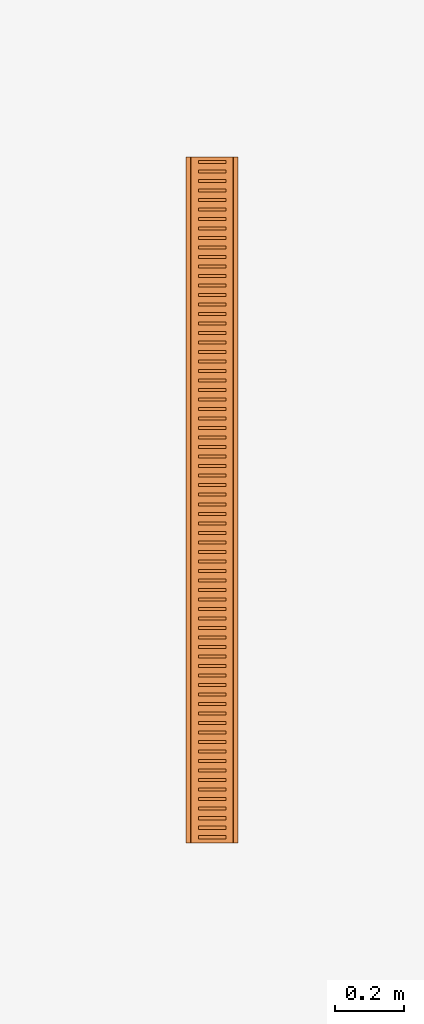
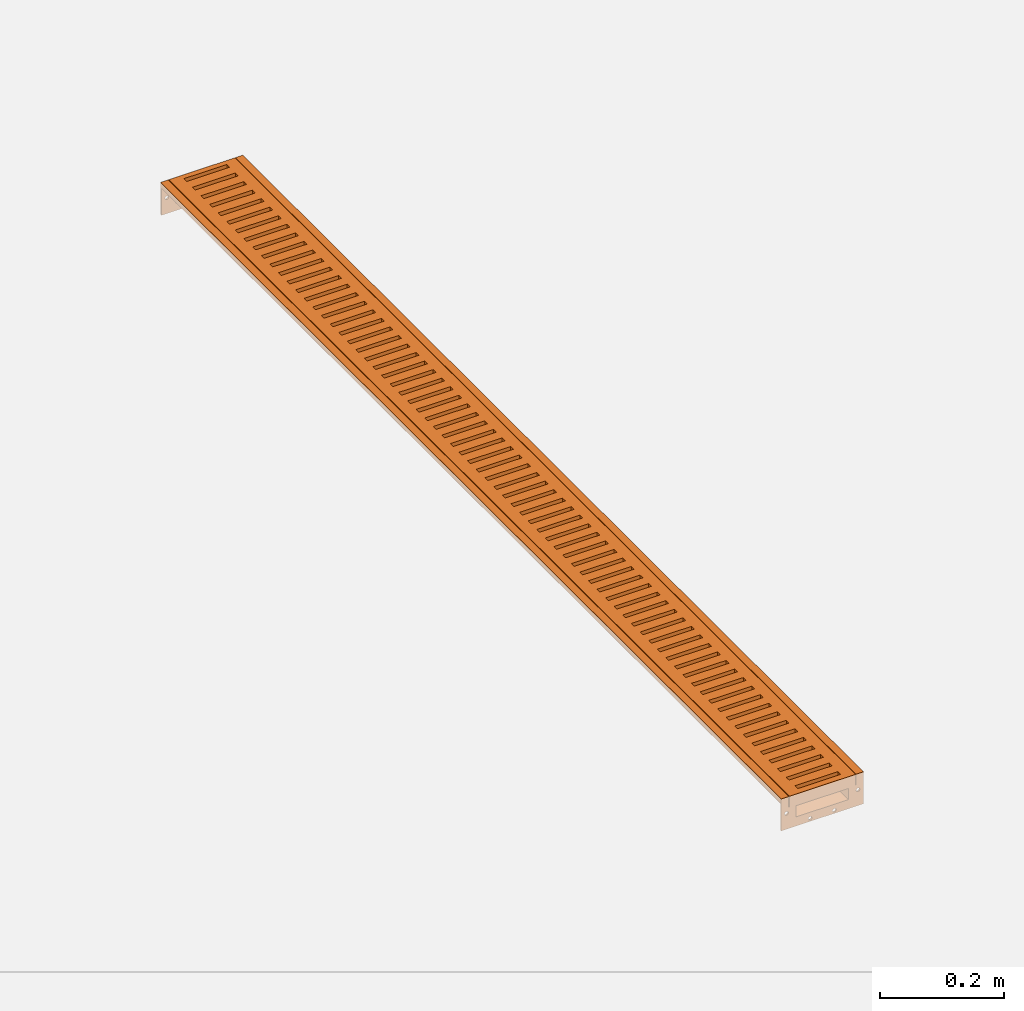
# One storey, part 2 of 2: 1 proxy.
"""IFC2X3 building model written with IfcOpenShell, lengths in millimetres."""

from ifc_helpers import new_model, entity, si_unit, converted_unit, direction, frame, frame_2d, origin, place, context, subcontext, project, spatial, polyline, circle_curve, parameter, trimmed, segment, composite_curve, outline, extrude, source, transform, mapped, material, element, save


model = new_model("IFC2X3")

# Units and contexts
model_context = context("Model", 3, precision=1e-06, world=origin(), true_north=direction((2.0, 6.12303176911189e-17, 1.0)))
context_of_model = context(None, 3, precision=1e-06, world=origin(), true_north=direction((2.0, 6.12303176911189e-17, 1.0)))
body_context = subcontext(model_context, "Body", "Model", "MODEL_VIEW")
ifc_project = project(units=[si_unit("LENGTHUNIT", "METRE", prefix="MILLI"), si_unit("AREAUNIT", "SQUARE_METRE", prefix="MILLI"), si_unit("VOLUMEUNIT", "CUBIC_METRE", prefix="MILLI"), converted_unit("PLANEANGLEUNIT", "DEGREE", entity("IfcRatioMeasure", 0.0174532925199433), si_unit("PLANEANGLEUNIT", "RADIAN"), dimensions=[0, 0, 0, 0, 0, 0, 0]), si_unit("TIMEUNIT", "SECOND")], contexts=[model_context, context_of_model])

# Site, building, storey
site_placement = place(None, origin())
site = spatial("IfcSite", under=ifc_project, at=site_placement, Name="Default", CompositionType="ELEMENT")
building_placement = place(site_placement, origin())
building = spatial("IfcBuilding", under=site, at=building_placement, CompositionType="ELEMENT")
storey_placement = place(building_placement, origin())
storey = spatial("IfcBuildingStorey", under=building, at=storey_placement, Name="Level 1", CompositionType="ELEMENT", Elevation=0.0)

# Proxy
ifc_material = material(Name="Steel, Galvanized")
shared_shape = source(origin(), body_context, "Body", "SweptSolid", [
    extrude(outline(polyline([(-1000.0, -61.4999999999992), (1000.0, -61.4999999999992), (1000.0, 61.4999999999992), (-1000.0, 61.4999999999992), (-1000.0, -61.4999999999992)]), holes=[polyline([(981.150000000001, 39.1969999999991), (990.150000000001, 39.1969999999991), (990.150000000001, -40.8030000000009), (981.150000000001, -40.8030000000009), (981.150000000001, 39.1969999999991)]), polyline([(953.430000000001, 39.196999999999), (962.430000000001, 39.196999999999), (962.430000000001, -40.8030000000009), (953.430000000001, -40.8030000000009), (953.430000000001, 39.196999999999)]), polyline([(934.710000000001, -40.8030000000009), (925.710000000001, -40.803000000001), (925.710000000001, 39.196999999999), (934.710000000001, 39.196999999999), (934.710000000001, -40.8030000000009)]), polyline([(897.990000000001, -40.803000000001), (897.990000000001, 39.196999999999), (906.990000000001, 39.196999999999), (906.990000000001, -40.803000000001), (897.990000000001, -40.803000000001)]), polyline([(879.270000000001, -40.803000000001), (870.270000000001, -40.8030000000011), (870.270000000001, 39.1969999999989), (879.270000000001, 39.196999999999), (879.270000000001, -40.803000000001)]), polyline([(851.550000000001, -40.8030000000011), (842.550000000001, -40.8030000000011), (842.550000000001, 39.1969999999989), (851.550000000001, 39.1969999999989), (851.550000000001, -40.8030000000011)]), polyline([(823.830000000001, -40.8030000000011), (814.830000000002, -40.8030000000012), (814.830000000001, 39.1969999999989), (823.830000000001, 39.1969999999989), (823.830000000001, -40.8030000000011)]), polyline([(796.110000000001, -40.8030000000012), (787.110000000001, -40.8030000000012), (787.110000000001, 39.1969999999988), (796.110000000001, 39.1969999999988), (796.110000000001, -40.8030000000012)]), polyline([(768.390000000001, -40.8030000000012), (759.390000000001, -40.8030000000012), (759.390000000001, 39.1969999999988), (768.390000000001, 39.1969999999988), (768.390000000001, -40.8030000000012)]), polyline([(740.670000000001, -40.8030000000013), (731.670000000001, -40.8030000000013), (731.670000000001, 39.1969999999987), (740.670000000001, 39.1969999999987), (740.670000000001, -40.8030000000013)]), polyline([(712.950000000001, -40.8030000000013), (703.950000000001, -40.8030000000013), (703.950000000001, 39.1969999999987), (712.950000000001, 39.1969999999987), (712.950000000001, -40.8030000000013)]), polyline([(685.230000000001, -40.8030000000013), (676.230000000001, -40.8030000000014), (676.230000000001, 39.1969999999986), (685.230000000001, 39.1969999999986), (685.230000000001, -40.8030000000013)]), polyline([(657.510000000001, -40.8030000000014), (648.510000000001, -40.8030000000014), (648.510000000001, 39.1969999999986), (657.510000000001, 39.1969999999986), (657.510000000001, -40.8030000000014)]), polyline([(629.790000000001, -40.8030000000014), (620.790000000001, -40.8030000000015), (620.790000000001, 39.1969999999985), (629.790000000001, 39.1969999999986), (629.790000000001, -40.8030000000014)]), polyline([(602.070000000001, -40.8030000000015), (593.070000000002, -40.8030000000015), (593.070000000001, 39.1969999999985), (602.070000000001, 39.1969999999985), (602.070000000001, -40.8030000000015)]), polyline([(574.350000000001, -40.8030000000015), (565.350000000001, -40.8030000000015), (565.350000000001, 39.1969999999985), (574.350000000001, 39.1969999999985), (574.350000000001, -40.8030000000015)]), polyline([(546.630000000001, -40.8030000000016), (537.630000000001, -40.8030000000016), (537.630000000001, 39.1969999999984), (546.630000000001, 39.1969999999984), (546.630000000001, -40.8030000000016)]), polyline([(518.910000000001, -40.8030000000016), (509.910000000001, -40.8030000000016), (509.910000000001, 39.1969999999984), (518.910000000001, 39.1969999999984), (518.910000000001, -40.8030000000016)]), polyline([(491.190000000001, -40.8030000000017), (482.190000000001, -40.8030000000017), (482.190000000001, 39.1969999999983), (491.190000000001, 39.1969999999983), (491.190000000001, -40.8030000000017)]), polyline([(463.470000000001, -40.8030000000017), (454.470000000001, -40.8030000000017), (454.470000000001, 39.1969999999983), (463.470000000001, 39.1969999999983), (463.470000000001, -40.8030000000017)]), polyline([(435.750000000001, -40.8030000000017), (426.750000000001, -40.8030000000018), (426.750000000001, 39.1969999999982), (435.750000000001, 39.1969999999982), (435.750000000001, -40.8030000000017)]), polyline([(408.030000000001, -40.8030000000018), (399.030000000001, -40.8030000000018), (399.030000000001, 39.1969999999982), (408.030000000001, 39.1969999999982), (408.030000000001, -40.8030000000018)]), polyline([(371.310000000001, -40.8030000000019), (371.310000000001, 39.1969999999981), (380.310000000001, 39.1969999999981), (380.310000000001, -40.8030000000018), (371.310000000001, -40.8030000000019)]), polyline([(352.590000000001, -40.8030000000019), (343.590000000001, -40.8030000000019), (343.590000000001, 39.1969999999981), (352.590000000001, 39.1969999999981), (352.590000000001, -40.8030000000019)]), polyline([(324.870000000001, -40.8030000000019), (315.870000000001, -40.803000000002), (315.870000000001, 39.196999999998), (324.870000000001, 39.1969999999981), (324.870000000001, -40.8030000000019)]), polyline([(297.150000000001, -40.803000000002), (288.150000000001, -40.803000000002), (288.150000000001, 39.196999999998), (297.150000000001, 39.196999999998), (297.150000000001, -40.803000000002)]), polyline([(269.430000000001, -40.803000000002), (260.430000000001, -40.8030000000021), (260.430000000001, 39.196999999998), (269.430000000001, 39.196999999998), (269.430000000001, -40.803000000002)]), polyline([(241.710000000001, -40.8030000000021), (232.710000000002, -40.8030000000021), (232.710000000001, 39.1969999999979), (241.710000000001, 39.1969999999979), (241.710000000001, -40.8030000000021)]), polyline([(213.990000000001, -40.8030000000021), (204.990000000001, -40.8030000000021), (204.990000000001, 39.1969999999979), (213.990000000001, 39.1969999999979), (213.990000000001, -40.8030000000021)]), polyline([(186.270000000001, -40.8030000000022), (177.270000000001, -40.8030000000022), (177.270000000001, 39.1969999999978), (186.270000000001, 39.1969999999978), (186.270000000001, -40.8030000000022)]), polyline([(158.550000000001, -40.8030000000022), (149.550000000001, -40.8030000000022), (149.550000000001, 39.1969999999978), (158.550000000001, 39.1969999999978), (158.550000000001, -40.8030000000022)]), polyline([(130.830000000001, -40.8030000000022), (121.830000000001, -40.8030000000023), (121.830000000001, 39.1969999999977), (130.830000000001, 39.1969999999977), (130.830000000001, -40.8030000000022)]), polyline([(103.110000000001, -40.8030000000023), (94.1100000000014, -40.8030000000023), (94.110000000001, 39.1969999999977), (103.110000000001, 39.1969999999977), (103.110000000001, -40.8030000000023)]), polyline([(75.3900000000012, -40.8030000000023), (66.3900000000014, -40.8030000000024), (66.390000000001, 39.1969999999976), (75.3900000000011, 39.1969999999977), (75.3900000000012, -40.8030000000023)]), polyline([(47.6700000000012, -40.8030000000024), (38.6700000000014, -40.8030000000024), (38.670000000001, 39.1969999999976), (47.6700000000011, 39.1969999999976), (47.6700000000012, -40.8030000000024)]), polyline([(19.9500000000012, -40.8030000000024), (10.9500000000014, -40.8030000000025), (10.950000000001, 39.1969999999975), (19.9500000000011, 39.1969999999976), (19.9500000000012, -40.8030000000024)]), polyline([(-979.049999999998, 39.1969999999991), (-979.049999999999, -40.8030000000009), (-988.049999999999, -40.8030000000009), (-988.049999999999, 39.1969999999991), (-979.049999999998, 39.1969999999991)]), polyline([(-951.329999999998, 39.196999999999), (-951.329999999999, -40.803000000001), (-960.329999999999, -40.803000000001), (-960.329999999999, 39.196999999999), (-951.329999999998, 39.196999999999)]), polyline([(-932.609999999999, -40.803000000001), (-932.609999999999, 39.196999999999), (-923.609999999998, 39.196999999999), (-923.609999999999, -40.803000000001), (-932.609999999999, -40.803000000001)]), polyline([(-895.889999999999, -40.8030000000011), (-904.889999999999, -40.803000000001), (-904.889999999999, 39.1969999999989), (-895.889999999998, 39.1969999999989), (-895.889999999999, -40.8030000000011)]), polyline([(-877.169999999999, -40.8030000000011), (-877.169999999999, 39.1969999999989), (-868.169999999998, 39.1969999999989), (-868.169999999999, -40.8030000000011), (-877.169999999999, -40.8030000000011)]), polyline([(-849.449999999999, -40.8030000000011), (-849.449999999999, 39.1969999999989), (-840.449999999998, 39.1969999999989), (-840.449999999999, -40.8030000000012), (-849.449999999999, -40.8030000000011)]), polyline([(-821.729999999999, -40.8030000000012), (-821.729999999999, 39.1969999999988), (-812.729999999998, 39.1969999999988), (-812.729999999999, -40.8030000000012), (-821.729999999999, -40.8030000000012)]), polyline([(-794.009999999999, -40.8030000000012), (-794.009999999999, 39.1969999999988), (-785.009999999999, 39.1969999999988), (-785.009999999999, -40.8030000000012), (-794.009999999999, -40.8030000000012)]), polyline([(-766.289999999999, -40.8030000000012), (-766.289999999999, 39.1969999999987), (-757.289999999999, 39.1969999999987), (-757.289999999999, -40.8030000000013), (-766.289999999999, -40.8030000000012)]), polyline([(-738.569999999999, -40.8030000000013), (-738.569999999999, 39.1969999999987), (-729.569999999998, 39.1969999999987), (-729.569999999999, -40.8030000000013), (-738.569999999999, -40.8030000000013)]), polyline([(-710.849999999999, -40.8030000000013), (-710.849999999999, 39.1969999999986), (-701.849999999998, 39.1969999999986), (-701.849999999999, -40.8030000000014), (-710.849999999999, -40.8030000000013)]), polyline([(-683.129999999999, -40.8030000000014), (-683.129999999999, 39.1969999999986), (-674.129999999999, 39.1969999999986), (-674.129999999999, -40.8030000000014), (-683.129999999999, -40.8030000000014)]), polyline([(-655.409999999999, -40.8030000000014), (-655.409999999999, 39.1969999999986), (-646.409999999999, 39.1969999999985), (-646.409999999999, -40.8030000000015), (-655.409999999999, -40.8030000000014)]), polyline([(-627.689999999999, -40.8030000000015), (-627.689999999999, 39.1969999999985), (-618.689999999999, 39.1969999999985), (-618.689999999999, -40.8030000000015), (-627.689999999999, -40.8030000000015)]), polyline([(-599.969999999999, -40.8030000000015), (-599.969999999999, 39.1969999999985), (-590.969999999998, 39.1969999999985), (-590.969999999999, -40.8030000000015), (-599.969999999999, -40.8030000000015)]), polyline([(-572.249999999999, -40.8030000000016), (-572.249999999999, 39.1969999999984), (-563.249999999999, 39.1969999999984), (-563.249999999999, -40.8030000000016), (-572.249999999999, -40.8030000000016)]), polyline([(-544.529999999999, -40.8030000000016), (-544.529999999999, 39.1969999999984), (-535.529999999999, 39.1969999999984), (-535.529999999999, -40.8030000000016), (-544.529999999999, -40.8030000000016)]), polyline([(-516.809999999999, -40.8030000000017), (-516.809999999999, 39.1969999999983), (-507.809999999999, 39.1969999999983), (-507.809999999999, -40.8030000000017), (-516.809999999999, -40.8030000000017)]), polyline([(-489.089999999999, -40.8030000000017), (-489.089999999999, 39.1969999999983), (-480.089999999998, 39.1969999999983), (-480.089999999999, -40.8030000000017), (-489.089999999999, -40.8030000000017)]), polyline([(-461.369999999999, -40.8030000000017), (-461.369999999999, 39.1969999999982), (-452.369999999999, 39.1969999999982), (-452.369999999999, -40.8030000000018), (-461.369999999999, -40.8030000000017)]), polyline([(-433.649999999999, -40.8030000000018), (-433.649999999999, 39.1969999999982), (-424.649999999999, 39.1969999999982), (-424.649999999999, -40.8030000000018), (-433.649999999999, -40.8030000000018)]), polyline([(-405.929999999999, -40.8030000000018), (-405.929999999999, 39.1969999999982), (-396.929999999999, 39.1969999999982), (-396.929999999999, -40.8030000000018), (-405.929999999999, -40.8030000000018)]), polyline([(-369.209999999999, -40.8030000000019), (-378.209999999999, -40.8030000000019), (-378.209999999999, 39.1969999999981), (-369.209999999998, 39.1969999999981), (-369.209999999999, -40.8030000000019)]), polyline([(-350.489999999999, -40.8030000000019), (-350.489999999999, 39.1969999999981), (-341.489999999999, 39.1969999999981), (-341.489999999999, -40.8030000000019), (-350.489999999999, -40.8030000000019)]), polyline([(-322.769999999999, -40.803000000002), (-322.769999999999, 39.196999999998), (-313.769999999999, 39.196999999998), (-313.769999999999, -40.803000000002), (-322.769999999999, -40.803000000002)]), polyline([(-295.049999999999, -40.803000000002), (-295.049999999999, 39.196999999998), (-286.049999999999, 39.196999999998), (-286.049999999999, -40.803000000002), (-295.049999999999, -40.803000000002)]), polyline([(-267.329999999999, -40.803000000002), (-267.329999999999, 39.196999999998), (-258.329999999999, 39.1969999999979), (-258.329999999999, -40.8030000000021), (-267.329999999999, -40.803000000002)]), polyline([(-239.609999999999, -40.8030000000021), (-239.609999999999, 39.1969999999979), (-230.609999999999, 39.1969999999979), (-230.609999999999, -40.8030000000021), (-239.609999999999, -40.8030000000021)]), polyline([(-211.889999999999, -40.8030000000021), (-211.889999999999, 39.1969999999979), (-202.889999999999, 39.1969999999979), (-202.889999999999, -40.8030000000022), (-211.889999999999, -40.8030000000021)]), polyline([(-184.169999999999, -40.8030000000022), (-184.169999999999, 39.1969999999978), (-175.169999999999, 39.1969999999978), (-175.169999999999, -40.8030000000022), (-184.169999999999, -40.8030000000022)]), polyline([(-156.449999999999, -40.8030000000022), (-156.449999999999, 39.1969999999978), (-147.449999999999, 39.1969999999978), (-147.449999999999, -40.8030000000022), (-156.449999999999, -40.8030000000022)]), polyline([(-128.729999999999, -40.8030000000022), (-128.729999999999, 39.1969999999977), (-119.729999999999, 39.1969999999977), (-119.729999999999, -40.8030000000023), (-128.729999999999, -40.8030000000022)]), polyline([(-101.009999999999, -40.8030000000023), (-101.009999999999, 39.1969999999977), (-92.0099999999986, 39.1969999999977), (-92.009999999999, -40.8030000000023), (-101.009999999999, -40.8030000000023)]), polyline([(-73.2899999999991, -40.8030000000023), (-73.289999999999, 39.1969999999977), (-64.2899999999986, 39.1969999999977), (-64.289999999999, -40.8030000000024), (-73.2899999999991, -40.8030000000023)]), polyline([(-45.5699999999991, -40.8030000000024), (-45.569999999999, 39.1969999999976), (-36.5699999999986, 39.1969999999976), (-36.569999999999, -40.8030000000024), (-45.5699999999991, -40.8030000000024)]), polyline([(-17.8499999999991, -40.8030000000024), (-17.849999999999, 39.1969999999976), (-8.84999999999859, 39.1969999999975), (-8.849999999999, -40.8030000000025), (-17.8499999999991, -40.8030000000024)])]), frame((-0.802999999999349, 1000.0, -23.0), z_axis=(0.0, 0.0, 1.0), x_axis=(0.0, 1.0, 0.0)), (0.0, 0.0, 1.0), 23.0),
    extrude(outline(polyline([(-76.479369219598, -27.9230769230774), (-62.5037510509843, -27.9230769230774), (-62.5037510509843, -6.92307692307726), (-48.5037510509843, -6.92307692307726), (-48.5037510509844, 17.076923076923), (48.4962489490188, 17.076923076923), (48.4962489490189, -6.92307692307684), (62.4962489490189, -6.92307692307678), (62.496248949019, -27.923076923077), (76.4962489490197, -27.923076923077), (76.4962489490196, 35.0769230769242), (-0.00375105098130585, 35.0769230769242), (-76.4793692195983, 35.0769230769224), (-76.479369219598, -27.9230769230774)]), holes=[composite_curve([segment(trimmed(circle_curve(frame_2d((66.4962489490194, 4.07692307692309), x_axis=(-1.0, 0.0)), 3.5), [parameter(180.000000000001)], [parameter(7.12444248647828e-13)], True, "PARAMETER"), False, "CONTINUOUS"), segment(trimmed(circle_curve(frame_2d((66.4962489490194, 4.07692307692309), x_axis=(-1.0, 0.0)), 3.5), [parameter(7.12444248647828e-13)], [parameter(180.0)], True, "PARAMETER"), False, "CONTINUOUS")], self_intersect=False), composite_curve([segment(trimmed(circle_curve(frame_2d((22.496248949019, 29.0769230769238), x_axis=(-1.0, 0.0)), 3.5), [parameter(180.0)], [parameter(7.12444248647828e-13)], True, "PARAMETER"), False, "CONTINUOUS"), segment(trimmed(circle_curve(frame_2d((22.496248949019, 29.0769230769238), x_axis=(-1.0, 0.0)), 3.5), [parameter(7.12444248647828e-13)], [parameter(180.0)], True, "PARAMETER"), False, "CONTINUOUS")], self_intersect=False), composite_curve([segment(trimmed(circle_curve(frame_2d((-22.5037510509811, 29.0769230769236), x_axis=(-1.0, 0.0)), 3.5), [parameter(4.07110999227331e-13)], [parameter(180.0)], True, "PARAMETER"), False, "CONTINUOUS"), segment(trimmed(circle_curve(frame_2d((-22.5037510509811, 29.0769230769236), x_axis=(-1.0, 0.0)), 3.5), [parameter(180.0)], [parameter(0.0)], True, "PARAMETER"), False, "CONTINUOUS")], self_intersect=False), composite_curve([segment(trimmed(circle_curve(frame_2d((-66.5037510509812, 4.07692307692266), x_axis=(-1.0, 0.0)), 3.5), [parameter(3.56222124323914e-13)], [parameter(180.0)], True, "PARAMETER"), False, "CONTINUOUS"), segment(trimmed(circle_curve(frame_2d((-66.5037510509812, 4.07692307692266), x_axis=(-1.0, 0.0)), 3.5), [parameter(180.0)], [parameter(0.0)], True, "PARAMETER"), False, "CONTINUOUS")], self_intersect=False)]), frame((-1.05616774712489, 1996.95528796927, -27.9230769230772), z_axis=(0.0, 1.0, 0.0), x_axis=(1.0, 0.0, 0.0)), (0.0, 0.0, 1.0), 2.95528796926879),
    extrude(outline(polyline([(-76.4999298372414, -27.9230769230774), (-62.5000127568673, -27.9230769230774), (-62.5000127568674, -6.92307692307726), (-48.5000127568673, -6.92307692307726), (-48.5000127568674, 17.076923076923), (48.4999872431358, 17.076923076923), (48.4999872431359, -6.92307692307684), (62.4999872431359, -6.92307692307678), (62.499987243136, -27.923076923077), (76.4999872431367, -27.923076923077), (76.4999872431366, 35.0769230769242), (-1.27568643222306e-05, 35.0769230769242), (-76.4999298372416, 35.0769230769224), (-76.4999298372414, -27.9230769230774)]), holes=[composite_curve([segment(trimmed(circle_curve(frame_2d((66.4999872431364, 4.07692307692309), x_axis=(-1.0, 0.0)), 3.5), [parameter(180.000000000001)], [parameter(7.12444248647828e-13)], True, "PARAMETER"), False, "CONTINUOUS"), segment(trimmed(circle_curve(frame_2d((66.4999872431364, 4.07692307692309), x_axis=(-1.0, 0.0)), 3.5), [parameter(7.12444248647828e-13)], [parameter(180.0)], True, "PARAMETER"), False, "CONTINUOUS")], self_intersect=False), composite_curve([segment(trimmed(circle_curve(frame_2d((22.4999872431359, 29.0769230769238), x_axis=(-1.0, 0.0)), 3.5), [parameter(180.0)], [parameter(7.12444248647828e-13)], True, "PARAMETER"), False, "CONTINUOUS"), segment(trimmed(circle_curve(frame_2d((22.4999872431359, 29.0769230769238), x_axis=(-1.0, 0.0)), 3.5), [parameter(7.12444248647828e-13)], [parameter(180.0)], True, "PARAMETER"), False, "CONTINUOUS")], self_intersect=False), composite_curve([segment(trimmed(circle_curve(frame_2d((-22.5000127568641, 29.0769230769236), x_axis=(-1.0, 0.0)), 3.5), [parameter(4.07110999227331e-13)], [parameter(180.0)], True, "PARAMETER"), False, "CONTINUOUS"), segment(trimmed(circle_curve(frame_2d((-22.5000127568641, 29.0769230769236), x_axis=(-1.0, 0.0)), 3.5), [parameter(180.0)], [parameter(4.07110999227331e-13)], True, "PARAMETER"), False, "CONTINUOUS")], self_intersect=False), composite_curve([segment(trimmed(circle_curve(frame_2d((-66.5000127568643, 4.07692307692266), x_axis=(-1.0, 0.0)), 3.5), [parameter(3.56222124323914e-13)], [parameter(180.0)], True, "PARAMETER"), False, "CONTINUOUS"), segment(trimmed(circle_curve(frame_2d((-66.5000127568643, 4.07692307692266), x_axis=(-1.0, 0.0)), 3.5), [parameter(180.0)], [parameter(3.56222124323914e-13)], True, "PARAMETER"), False, "CONTINUOUS")], self_intersect=False)]), frame((-1.0599060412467, 0.0, -27.9230769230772), z_axis=(0.0, 1.0, 0.0), x_axis=(1.0, 0.0, 0.0)), (0.0, 0.0, 1.0), 2.95528796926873),
    extrude(outline(polyline([(-19.4461905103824, -62.4999585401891), (-19.4461905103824, -76.4999585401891), (-9.4461905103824, -76.4999585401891), (-9.4461905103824, -74.4999585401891), (-17.4822085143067, -74.4999585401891), (-17.4822085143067, -64.499958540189), (3.50614790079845, -64.499958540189), (3.50614790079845, -50.499958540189), (27.3476239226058, -50.499958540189), (27.3476239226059, 0.0), (27.3476239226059, 50.4999585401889), (3.50614790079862, 50.499958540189), (3.50614790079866, 64.499958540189), (-17.4822085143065, 64.4999585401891), (-17.4822085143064, 74.4999585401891), (-9.44619051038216, 74.4999585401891), (-9.44619051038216, 76.4999585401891), (-19.4461905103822, 76.4999585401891), (-19.4461905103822, 62.4999585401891), (1.5538094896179, 62.4999585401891), (1.55380948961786, 48.499958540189), (3.27711417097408, 48.499958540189), (25.5538094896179, 48.4999585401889), (25.5538094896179, 0.0), (25.5538094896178, -48.499958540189), (3.27711417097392, -48.499958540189), (1.5538094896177, -48.499958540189), (1.5538094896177, -62.4999585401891), (-19.4461905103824, -62.4999585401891)])), frame((-1.03557842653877, 2.95528796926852, -19.4461905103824), z_axis=(0.0, -1.0, 0.0), x_axis=(0.0, 0.0, -1.0)), (0.0, 0.0, -1.0), 1994.0),
])
proxy_placement = place(storey_placement, frame((-123.157862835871, -980.804760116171, 0.0)))
element("IfcBuildingElementProxy", 1, at=proxy_placement, inside=storey, material=ifc_material, Name="ACO BD Deckline 125 Straight Channel:105256 - Level Invert Channel-2000mm LG:105256 - Level Invert Channel-2000mm LG", ObjectType="105256 - Level Invert Channel-2000mm LG", CompositionType="ELEMENT", context=body_context, shape_type="MappedRepresentation", body=[
    mapped(shared_shape, transform((0.0, 0.0, 0.0), scale=1.0)),
])

save(model, "model.ifc")
